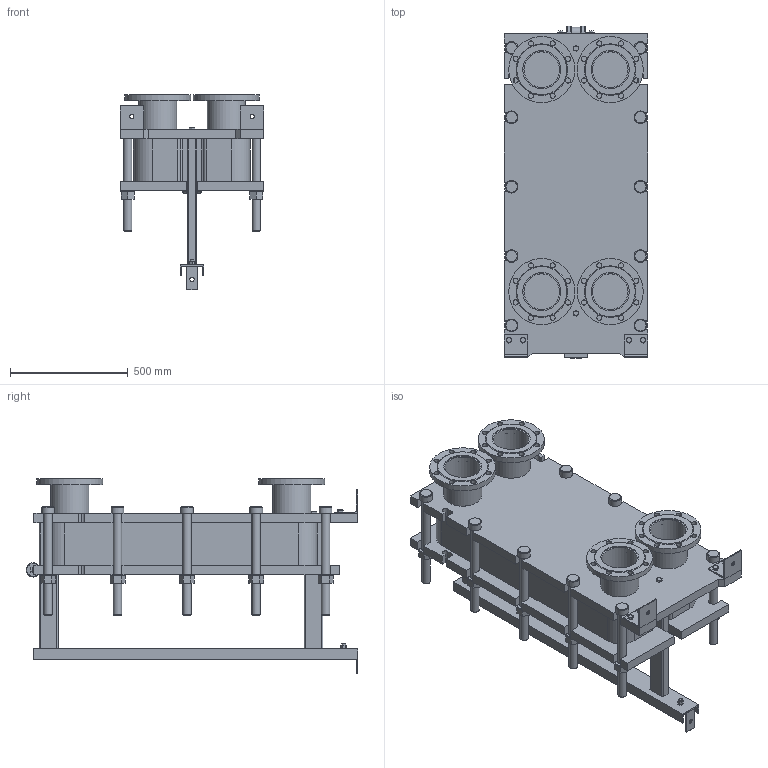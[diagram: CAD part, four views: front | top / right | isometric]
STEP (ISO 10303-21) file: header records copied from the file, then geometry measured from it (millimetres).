
FILE_DESCRIPTION(/* description */ (''),/* implementation_level */ '2;1');
FILE_NAME(/* name */ 'C:\Users\zhuro\Desktop\ENCO\TO\ЭН-041\ЭН-0,5-041-52-1.stp',/* time_stamp */ '2022-06-06T10:53:12+03:00',/* author */ ('zhuro'),/* organization */ (''),/* preprocessor_version */ 'ST-DEVELOPER v18.1',/* originating_system */ 'Autodesk Inventor 2022',/* authorisation */ '');
FILE_SCHEMA (('AUTOMOTIVE_DESIGN { 1 0 10303 214 3 1 1 }'));
Length unit declared in the file: millimetre
Products named in the file (1): ЭН-0,5-041-52-1
Bounding box: 610 x 1406.5 x 830 mm (x, y, z)
Volume: 178001316.9 mm3; surface area: 7966150.5 mm2
Topology: 52 solids, 52 shells, 711 faces, 1696 edges, 1094 vertices
Faces by surface type: plane 487, cylinder 177, cone 41, torus 6
Full cylindrical faces by diameter (mm): 8 x4, 10 x2, 16 x8, 18 x3, 22 x32, 36 x24, 50 x1, 54 x10, 60 x12, 151 x4, 161 x8, 280 x4
Entity records: 22667 total; most frequent: CARTESIAN_POINT 5230, DIRECTION 3644, ORIENTED_EDGE 3392, EDGE_CURVE 1696, AXIS2_PLACEMENT_3D 1272, LINE 1100, VECTOR 1100, VERTEX_POINT 1094
